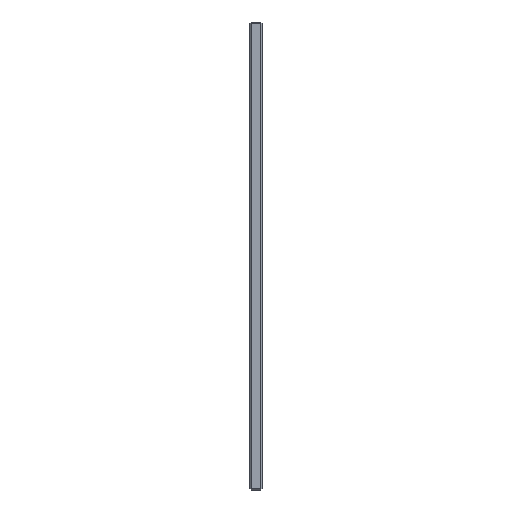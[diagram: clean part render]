
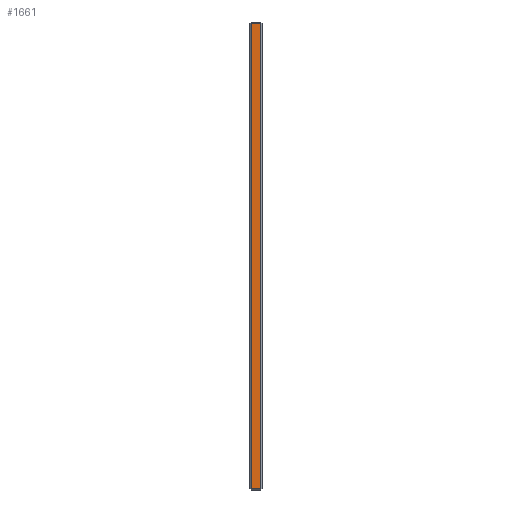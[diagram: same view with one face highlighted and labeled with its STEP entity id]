
A CAD part, left-side view. The second image highlights one B-rep face of the part: STEP entity #1661.
In plain terms, the highlighted planar face has unit normal (-1, 0, 0).
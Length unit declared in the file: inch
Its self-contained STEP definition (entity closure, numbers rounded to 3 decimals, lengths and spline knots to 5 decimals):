
#21 = DIRECTION ( 'NONE',  ( 1., 0., 0. ) ) ;
#32 = CARTESIAN_POINT ( 'NONE',  ( -14.6875, 0.45, -9.6375 ) ) ;
#69 = VERTEX_POINT ( 'NONE', #32 ) ;
#70 = LINE ( 'NONE', #427, #1665 ) ;
#105 = CARTESIAN_POINT ( 'NONE',  ( -14.6875, 0.45, 9.6375 ) ) ;
#160 = EDGE_CURVE ( 'NONE', #1858, #309, #70, .T. ) ;
#210 = DIRECTION ( 'NONE',  ( 0., -1., 0. ) ) ;
#247 = DIRECTION ( 'NONE',  ( 0., 0., 1. ) ) ;
#269 = ORIENTED_EDGE ( 'NONE', *, *, #160, .T. ) ;
#309 = VERTEX_POINT ( 'NONE', #1077 ) ;
#409 = LINE ( 'NONE', #915, #907 ) ;
#427 = CARTESIAN_POINT ( 'NONE',  ( -14.6875, 0.05, -9.6875 ) ) ;
#462 = DIRECTION ( 'NONE',  ( 0., 0., -1. ) ) ;
#470 = VECTOR ( 'NONE', #210, 39.37008 ) ;
#494 = ORIENTED_EDGE ( 'NONE', *, *, #1797, .T. ) ;
#495 = EDGE_CURVE ( 'NONE', #309, #1777, #973, .T. ) ;
#517 = EDGE_CURVE ( 'NONE', #69, #1858, #847, .T. ) ;
#668 = DIRECTION ( 'NONE',  ( 0., 0., -1. ) ) ;
#701 = CARTESIAN_POINT ( 'NONE',  ( -14.6875, 0.5, -9.6375 ) ) ;
#792 = CARTESIAN_POINT ( 'NONE',  ( -14.6875, 0.05, -9.6375 ) ) ;
#847 = LINE ( 'NONE', #701, #470 ) ;
#866 = ORIENTED_EDGE ( 'NONE', *, *, #517, .T. ) ;
#907 = VECTOR ( 'NONE', #462, 39.37008 ) ;
#915 = CARTESIAN_POINT ( 'NONE',  ( -14.6875, 0.45, -9.6875 ) ) ;
#945 = VECTOR ( 'NONE', #1615, 39.37008 ) ;
#970 = ORIENTED_EDGE ( 'NONE', *, *, #495, .T. ) ;
#973 = LINE ( 'NONE', #1152, #945 ) ;
#1077 = CARTESIAN_POINT ( 'NONE',  ( -14.6875, 0.05, 9.6375 ) ) ;
#1136 = PLANE ( 'NONE',  #1971 ) ;
#1152 = CARTESIAN_POINT ( 'NONE',  ( -14.6875, 0.5, 9.6375 ) ) ;
#1202 = EDGE_LOOP ( 'NONE', ( #494, #866, #269, #970 ) ) ;
#1615 = DIRECTION ( 'NONE',  ( 0., 1., 0. ) ) ;
#1661 = ADVANCED_FACE ( 'Placement Plane', ( #1819 ), #1136, .F. ) ;
#1665 = VECTOR ( 'NONE', #247, 39.37008 ) ;
#1777 = VERTEX_POINT ( 'NONE', #105 ) ;
#1797 = EDGE_CURVE ( 'NONE', #1777, #69, #409, .T. ) ;
#1819 = FACE_OUTER_BOUND ( 'NONE', #1202, .T. ) ;
#1858 = VERTEX_POINT ( 'NONE', #792 ) ;
#1936 = CARTESIAN_POINT ( 'NONE',  ( -14.6875, 0.5, -9.6875 ) ) ;
#1971 = AXIS2_PLACEMENT_3D ( 'NONE', #1936, #21, #668 ) ;
